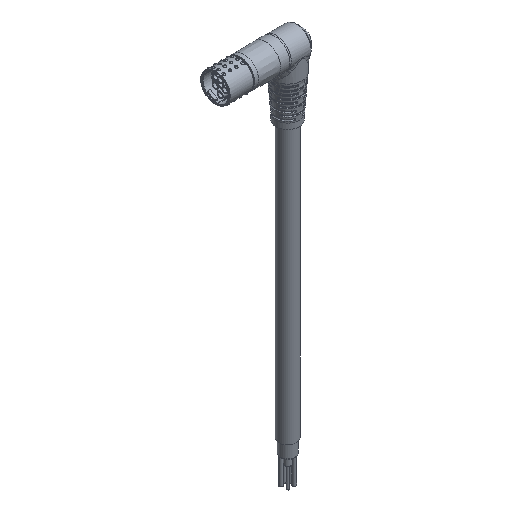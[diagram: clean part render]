
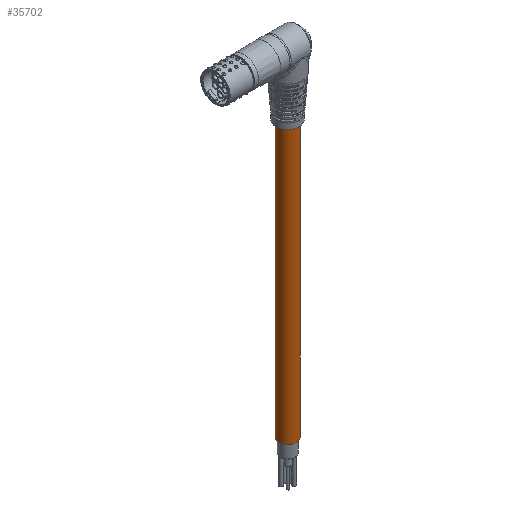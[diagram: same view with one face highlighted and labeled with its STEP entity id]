
A CAD part, isometric view. The second image highlights one B-rep face of the part: STEP entity #35702.
In plain terms, the highlighted cylindrical face has radius 6.4 mm (diameter 12.8 mm), a full revolution.
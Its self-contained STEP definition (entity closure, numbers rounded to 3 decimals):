
#257 = ORIENTED_EDGE ( 'NONE', *, *, #17005, .T. ) ;
#2187 = DIRECTION ( 'NONE',  ( 0.67, 0.742, 0. ) ) ;
#6442 = CARTESIAN_POINT ( 'NONE',  ( -38.97, 46.873, -59.463 ) ) ;
#10151 = EDGE_LOOP ( 'NONE', ( #11617 ) ) ;
#11617 = ORIENTED_EDGE ( 'NONE', *, *, #29791, .F. ) ;
#14511 = VERTEX_POINT ( 'NONE', #26034 ) ;
#14561 = AXIS2_PLACEMENT_3D ( 'NONE', #34694, #20799, #14732 ) ;
#14732 = DIRECTION ( 'NONE',  ( 0.67, 0.742, 0. ) ) ;
#14749 = DIRECTION ( 'NONE',  ( 0.67, 0.742, 0. ) ) ;
#17005 = EDGE_CURVE ( 'NONE', #14511, #14511, #28225, .T. ) ;
#20799 = DIRECTION ( 'NONE',  ( 0., 0., 1. ) ) ;
#21338 = VERTEX_POINT ( 'NONE', #6442 ) ;
#22423 = CIRCLE ( 'NONE', #14561, 6.4 ) ;
#22700 = CARTESIAN_POINT ( 'NONE',  ( -43.259, 42.123, -259.463 ) ) ;
#22889 = FACE_OUTER_BOUND ( 'NONE', #10151, .T. ) ;
#23133 = CARTESIAN_POINT ( 'NONE',  ( -43.259, 42.123, -259.463 ) ) ;
#26034 = CARTESIAN_POINT ( 'NONE',  ( -38.97, 46.873, -259.463 ) ) ;
#28195 = DIRECTION ( 'NONE',  ( 0., 0., 1. ) ) ;
#28225 = CIRCLE ( 'NONE', #30633, 6.4 ) ;
#28320 = CYLINDRICAL_SURFACE ( 'NONE', #35740, 6.4 ) ;
#29791 = EDGE_CURVE ( 'NONE', #21338, #21338, #22423, .T. ) ;
#30633 = AXIS2_PLACEMENT_3D ( 'NONE', #23133, #28195, #2187 ) ;
#31122 = FACE_OUTER_BOUND ( 'NONE', #34691, .T. ) ;
#34691 = EDGE_LOOP ( 'NONE', ( #257 ) ) ;
#34694 = CARTESIAN_POINT ( 'NONE',  ( -43.259, 42.123, -59.463 ) ) ;
#35702 = ADVANCED_FACE ( 'NONE', ( #31122, #22889 ), #28320, .T. ) ;
#35740 = AXIS2_PLACEMENT_3D ( 'NONE', #22700, #37001, #14749 ) ;
#37001 = DIRECTION ( 'NONE',  ( 0., 0., 1. ) ) ;
